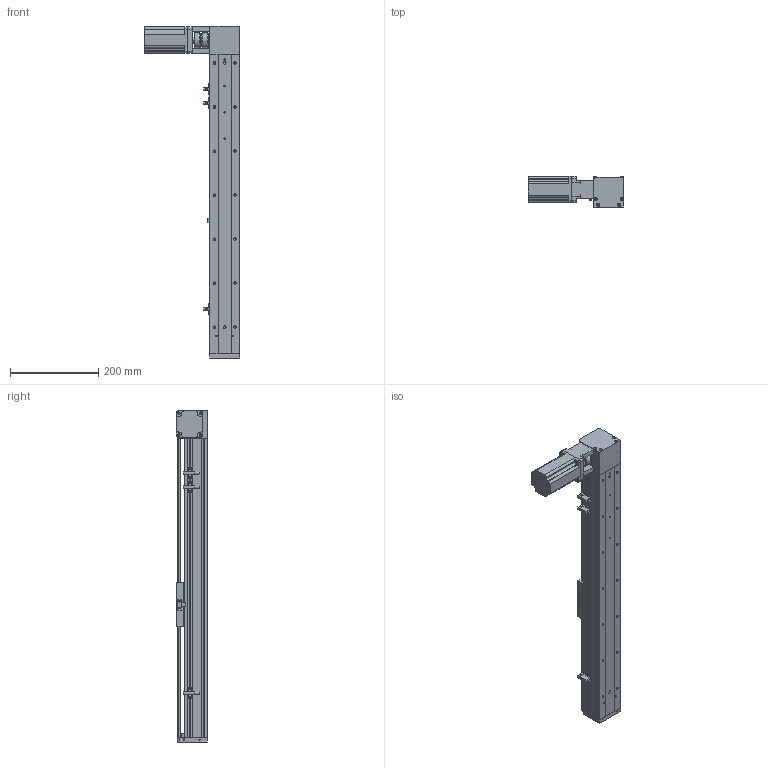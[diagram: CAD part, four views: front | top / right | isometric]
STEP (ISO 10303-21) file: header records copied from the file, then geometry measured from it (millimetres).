
FILE_DESCRIPTION (( 'STEP AP203' ), '1' );
FILE_NAME ('ML68-S500-BL.STEP', '2016-06-01T03:08:17', ( '微软用户' ), ( '微软中国' ), 'SwSTEP 2.0', 'SolidWorks 2014', '' );
FILE_SCHEMA (( 'CONFIG_CONTROL_DESIGN' ));
Length unit declared in the file: millimetre
Products named in the file (12): 三协电机MH201N2_預設; 联轴器（CS34X32-8X14）_預設; MS68-TS0204鎮湛嘐隅釱_蕼偞; ML68-奻裔^ML68-S500-BL; ML68-BL傷啣; ML68雄赽釱; 60換覜結え; ML68滅鳥啣盓傅輸; ML68-菁釱^ML68-S500-BL; ML68-S500-BL; ML68傷啣; 換覜ん
Assembly tree (13 placements, depth 2):
  ML68-S500-BL
    ML68-BL傷啣
    60換覜結え
    ML68-菁釱^ML68-S500-BL
    ML68傷啣
    換覜ん  x3
    三协电机MH201N2_預設
    联轴器（CS34X32-8X14）_預設
    MS68-TS0204鎮湛嘐隅釱_蕼偞
    ML68-奻裔^ML68-S500-BL
    ML68雄赽釱
    ML68滅鳥啣盓傅輸
Bounding box: 216.5 x 70.5 x 754 mm (x, y, z)
Volume: 1538620.6 mm3; surface area: 529001.1 mm2
Topology: 14 solids, 14 shells, 895 faces, 2425 edges, 1535 vertices
Faces by surface type: cylinder 415, plane 366, cone 100, bspline 14
Entity records: 28585 total; most frequent: CARTESIAN_POINT 5823, DIRECTION 4617, ORIENTED_EDGE 4366, EDGE_CURVE 2183, AXIS2_PLACEMENT_3D 1691, VERTEX_POINT 1423, VECTOR 1235, LINE 1235
